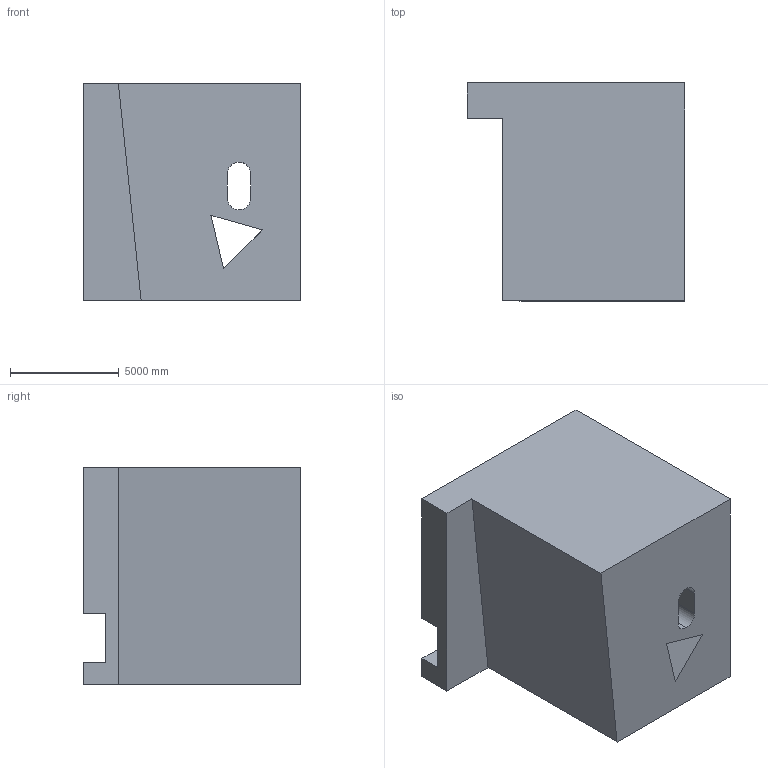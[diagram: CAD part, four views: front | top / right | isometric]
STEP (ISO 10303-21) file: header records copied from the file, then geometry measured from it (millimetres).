
FILE_DESCRIPTION (( 'STEP AP203' ), '1' );
FILE_NAME ('1414.STEP', '2022-08-18T14:20:09', ( 'user' ), ( '' ), 'SwSTEP 2.0', 'SolidWorks 2021', '' );
FILE_SCHEMA (( 'CONFIG_CONTROL_DESIGN' ));
Length unit declared in the file: centimetre
Products named in the file (1): 1414
Bounding box: 10000 x 10000 x 10000 mm (x, y, z)
Volume: 711103337756 mm3; surface area: 673060580.1 mm2
Topology: 1 solids, 1 shells, 25 faces, 75 edges, 50 vertices
Faces by surface type: plane 22, cylinder 3
Entity records: 922 total; most frequent: CARTESIAN_POINT 151, ORIENTED_EDGE 150, DIRECTION 135, EDGE_CURVE 75, LINE 67, VECTOR 67, VERTEX_POINT 50, AXIS2_PLACEMENT_3D 34
